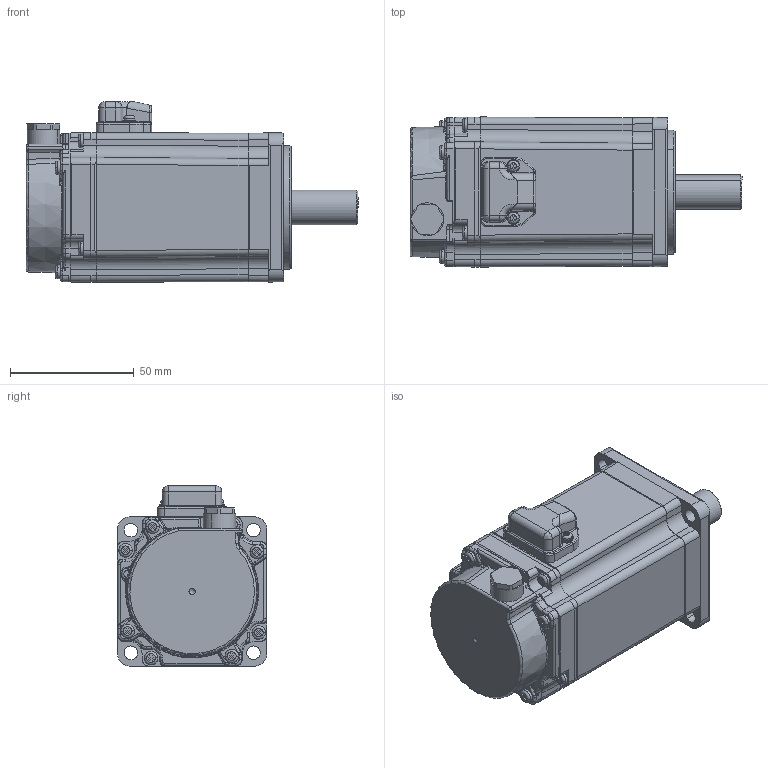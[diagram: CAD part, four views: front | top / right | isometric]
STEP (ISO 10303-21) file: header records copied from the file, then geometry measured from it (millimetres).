
FILE_DESCRIPTION((''),'2;1');
FILE_NAME('400W_ASM','2012-07-10T',('servo'),(''),'PRO/ENGINEER BY PARAMETRIC TECHNOLOGY CORPORATION, 2010280','PRO/ENGINEER BY PARAMETRIC TECHNOLOGY CORPORATION, 2010280','');
FILE_SCHEMA(('CONFIG_CONTROL_DESIGN'));
Length unit declared in the file: millimetre
Products named in the file (2): 67154075; 400W_ASM
Assembly tree (1 placements, depth 2):
  400W_ASM
    67154075
Bounding box: 134 x 60.51 x 72.87 mm (x, y, z)
Volume: 335430.5 mm3; surface area: 34678.8 mm2
Topology: 1 solids, 1 shells, 843 faces, 2421 edges, 1592 vertices
Faces by surface type: plane 329, cylinder 287, bspline 112, torus 96, cone 19
Entity records: 38623 total; most frequent: CARTESIAN_POINT 17060, ORIENTED_EDGE 4804, DIRECTION 4229, EDGE_CURVE 2402, AXIS2_PLACEMENT_3D 1595, VERTEX_POINT 1592, VECTOR 1039, LINE 1039
